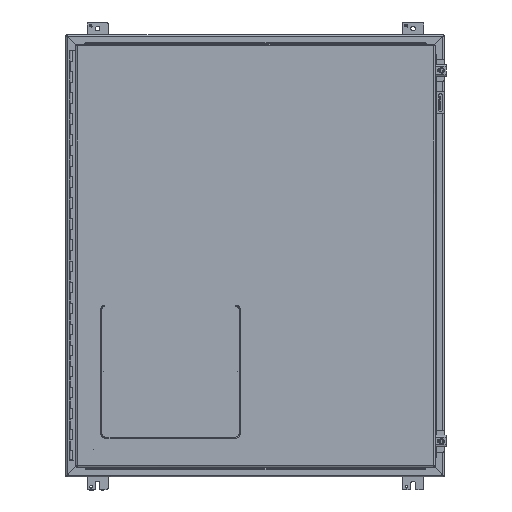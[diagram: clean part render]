
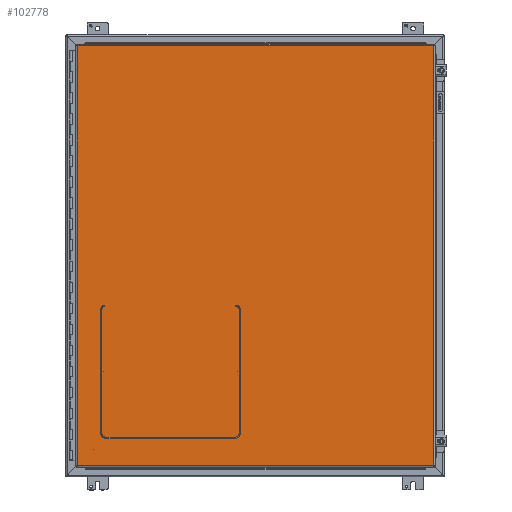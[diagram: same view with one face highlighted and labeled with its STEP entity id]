
A CAD part, top view. The second image highlights one B-rep face of the part: STEP entity #102778.
In plain terms, the highlighted planar face has unit normal (0, 0, 1).
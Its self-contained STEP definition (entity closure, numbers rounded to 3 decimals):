
#102677 = ORIENTED_EDGE ( 'NONE', *, *, #102681, .T. ) ;
#102681 = EDGE_CURVE ( 'NONE', #102806, #102683, #141113, .T. ) ;
#102683 = VERTEX_POINT ( 'NONE', #141108 ) ;
#102688 = ORIENTED_EDGE ( 'NONE', *, *, #102853, .T. ) ;
#102778 = ADVANCED_FACE ( 'NONE', ( #141487 ), #141479, .T. ) ;
#102782 = EDGE_LOOP ( 'NONE', ( #102788, #102800, #102677, #102688 ) ) ;
#102788 = ORIENTED_EDGE ( 'NONE', *, *, #102792, .T. ) ;
#102792 = EDGE_CURVE ( 'NONE', #102794, #102797, #141474, .T. ) ;
#102794 = VERTEX_POINT ( 'NONE', #141458 ) ;
#102797 = VERTEX_POINT ( 'NONE', #141455 ) ;
#102800 = ORIENTED_EDGE ( 'NONE', *, *, #102803, .T. ) ;
#102803 = EDGE_CURVE ( 'NONE', #102797, #102806, #141548, .T. ) ;
#102806 = VERTEX_POINT ( 'NONE', #141543 ) ;
#102853 = EDGE_CURVE ( 'NONE', #102683, #102794, #141803, .T. ) ;
#141108 = CARTESIAN_POINT ( 'NONE',  ( -16.946, 19.965, 0.072 ) ) ;
#141110 = DIRECTION ( 'NONE',  ( -1., 0., 0. ) ) ;
#141111 = VECTOR ( 'NONE', #141110, 39.37 ) ;
#141112 = CARTESIAN_POINT ( 'NONE',  ( 17.001, 19.965, 0.072 ) ) ;
#141113 = LINE ( 'NONE', #141112, #141111 ) ;
#141455 = CARTESIAN_POINT ( 'NONE',  ( 16.946, -19.965, 0.072 ) ) ;
#141458 = CARTESIAN_POINT ( 'NONE',  ( -16.946, -19.965, 0.072 ) ) ;
#141464 = DIRECTION ( 'NONE',  ( 1., 0., 0. ) ) ;
#141465 = VECTOR ( 'NONE', #141464, 39.37 ) ;
#141466 = CARTESIAN_POINT ( 'NONE',  ( -17.001, -19.965, 0.072 ) ) ;
#141469 = DIRECTION ( 'NONE',  ( 1., 0., 0. ) ) ;
#141471 = DIRECTION ( 'NONE',  ( 0., 0., 1. ) ) ;
#141473 = CARTESIAN_POINT ( 'NONE',  ( -17.078, -20.097, 0.072 ) ) ;
#141474 = LINE ( 'NONE', #141466, #141465 ) ;
#141477 = AXIS2_PLACEMENT_3D ( 'NONE', #141473, #141471, #141469 ) ;
#141479 = PLANE ( 'NONE',  #141477 ) ;
#141487 = FACE_OUTER_BOUND ( 'NONE', #102782, .T. ) ;
#141543 = CARTESIAN_POINT ( 'NONE',  ( 16.946, 19.965, 0.072 ) ) ;
#141544 = DIRECTION ( 'NONE',  ( 0., 1., 0. ) ) ;
#141546 = VECTOR ( 'NONE', #141544, 39.37 ) ;
#141547 = CARTESIAN_POINT ( 'NONE',  ( 16.946, -20.02, 0.072 ) ) ;
#141548 = LINE ( 'NONE', #141547, #141546 ) ;
#141796 = DIRECTION ( 'NONE',  ( 0., -1., 0. ) ) ;
#141798 = VECTOR ( 'NONE', #141796, 39.37 ) ;
#141800 = CARTESIAN_POINT ( 'NONE',  ( -16.946, 20.02, 0.072 ) ) ;
#141803 = LINE ( 'NONE', #141800, #141798 ) ;
